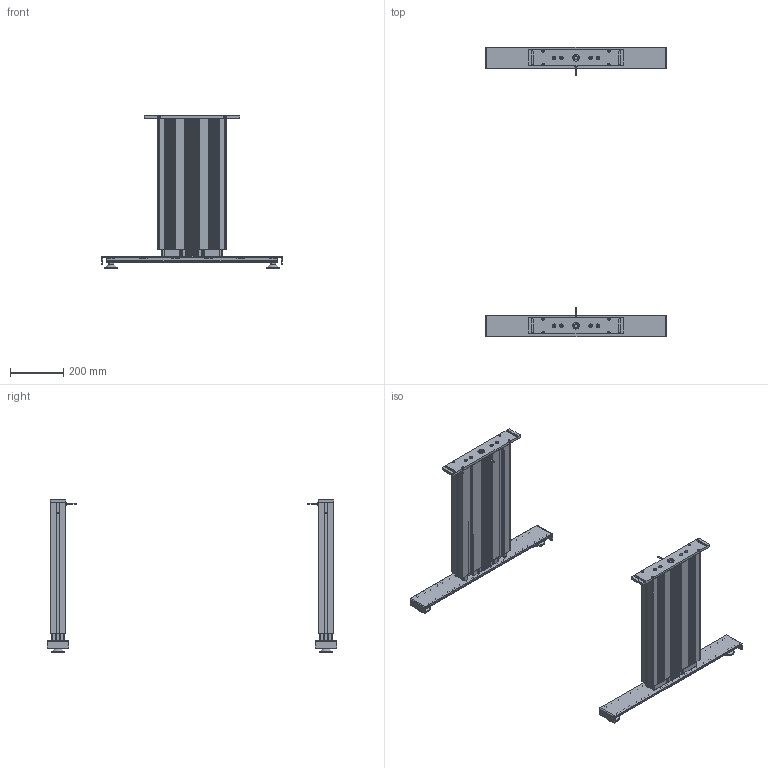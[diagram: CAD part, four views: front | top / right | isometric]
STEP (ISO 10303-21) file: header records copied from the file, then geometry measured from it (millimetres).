
FILE_DESCRIPTION(/* description */ ('Unknown'),/* implementation_level */ '2;1');
FILE_NAME(/* name */ '108.00301_01-Eingefahren',/* time_stamp */ '2022-02-09T17:00:48+01:00',/* author */ ('Unknown'),/* organization */ ('Unknown'),/* preprocessor_version */ 'ST-DEVELOPER v18.1',/* originating_system */ 'Solid Edge',/* authorisation */ 'Unknown');
FILE_SCHEMA (('AUTOMOTIVE_DESIGN {1 0 10303 214 3 1 1}'));
Products named in the file (29): 108.00301; 306.00633_oa_0; 115.00068_oa_1; 119.00404; 119.00305; 142.00254; 113.00002_70mm; 124.00123; 142.00166; 107.00028_oa_2; 142.00021; 125.00021; 115.00007_oa_3; 125.00033; 126.00146; 142.00081; 142.00031; 306.00633_oa_4; 115.00068_oa_5; 107.00028_oa_6; 115.00007_oa_7; 127.00515; 127.00520; 127.00556; 127.00557; 127.00520_461_469_Kehlnaht 1_oa_8; 113.00006; 113.00006-ohne Mutter; Mutter M10
Assembly tree (52 placements, depth 4):
  108.00301
    306.00633_oa_0
      115.00068_oa_1
        119.00404
        119.00305
        142.00254  x2
      113.00002_70mm
      124.00123
      142.00166  x4
      107.00028_oa_2
        142.00021
        125.00021
        115.00007_oa_3
        125.00033
        113.00002_70mm
      126.00146
      142.00081
      142.00031
    306.00633_oa_4
      115.00068_oa_5
        119.00404
        119.00305
        142.00254  x2
      113.00002_70mm
      124.00123
      142.00166  x4
      107.00028_oa_6
        142.00021
        125.00021
        115.00007_oa_7
        125.00033
        113.00002_70mm
      126.00146
      142.00081
      142.00031
    127.00515  x2
      127.00520
        127.00556
        127.00557
        127.00520_461_469_Kehlnaht 1_oa_8
      113.00006
        113.00006-ohne Mutter
        Mutter M10
Bounding box: 680 x 1090 x 575 mm (x, y, z)
Volume: 6261070.3 mm3; surface area: 3753541 mm2
Topology: 70 solids, 70 shells, 4994 faces, 14226 edges, 9450 vertices
Faces by surface type: plane 2804, cylinder 2008, cone 108, torus 40, bspline 32, sphere 2
Full cylindrical faces by diameter (mm): 1.8 x4, 2.2 x4, 2.78 x2, 3.242 x8, 3.4 x2, 3.5 x2, 4 x8, 4.1 x2, 4.2 x2, 5 x10, 5.5 x8, 6 x2, 6.6 x8, 6.917 x4, 7 x4, 7.5 x16, 8 x6, 8.376 x10, 8.5 x8, 8.7 x8, 9 x2, 9.5 x4, 10 x6, 12.5 x2, 13 x12, 13.5 x2, 13.9 x4, 14 x16, 15 x4, 19 x4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
Entity records: 89156 total; most frequent: CARTESIAN_POINT 14800, ORIENTED_EDGE 13520, DIRECTION 13349, EDGE_CURVE 6760, VERTEX_POINT 4562, LINE 4465, VECTOR 4465, AXIS2_PLACEMENT_3D 4442
